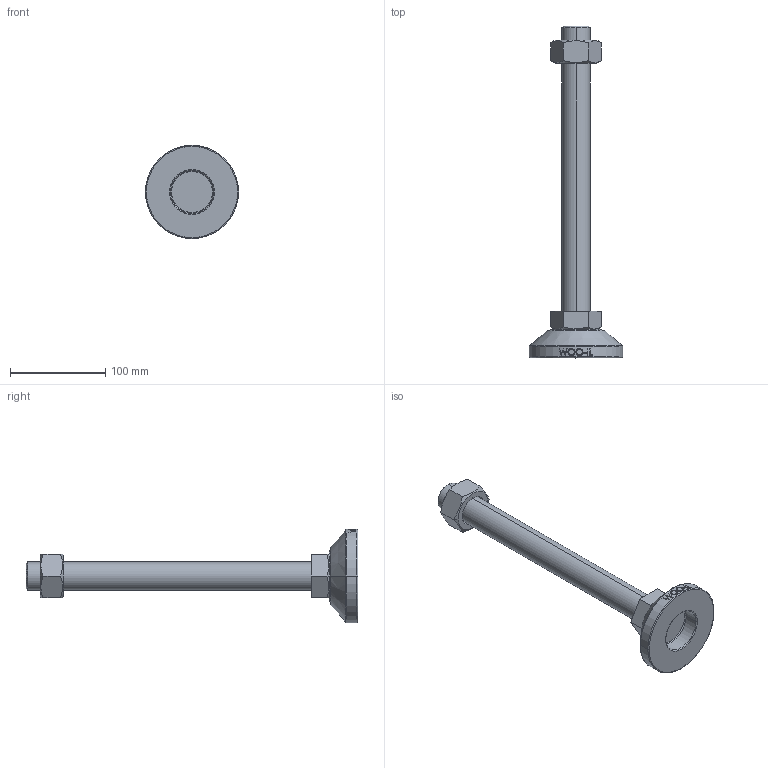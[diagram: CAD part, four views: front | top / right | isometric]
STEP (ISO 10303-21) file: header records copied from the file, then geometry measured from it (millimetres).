
FILE_DESCRIPTION (( 'STEP AP214' ), '1' );
FILE_NAME ('MF98-M30-300.step', '2021-02-03T08:24:17', ( '' ), ( '' ), 'SwSTEP 2.0', 'SolidWorks 2019', '' );
FILE_SCHEMA (( 'AUTOMOTIVE_DESIGN' ));
Length unit declared in the file: millimetre
Products named in the file (2): MF98-M30-300
Bounding box: 98 x 349 x 98 mm (x, y, z)
Volume: 425358.5 mm3; surface area: 65359.5 mm2
Topology: 3 solids, 3 shells, 106 faces, 243 edges, 154 vertices
Faces by surface type: plane 48, cylinder 18, bspline 16, cone 14, torus 10
Entity records: 4554 total; most frequent: CARTESIAN_POINT 2211, ORIENTED_EDGE 486, DIRECTION 439, EDGE_CURVE 243, AXIS2_PLACEMENT_3D 170, VERTEX_POINT 154, EDGE_LOOP 119, FACE_OUTER_BOUND 106
